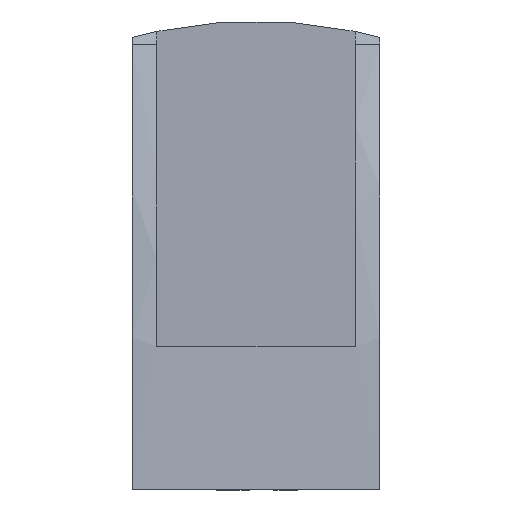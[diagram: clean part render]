
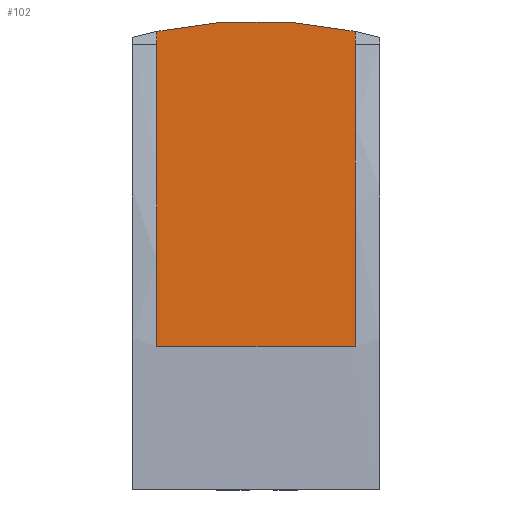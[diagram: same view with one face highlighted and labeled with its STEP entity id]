
A CAD part, left-side view. The second image highlights one B-rep face of the part: STEP entity #102.
In plain terms, the highlighted planar face has unit normal (-1, 0, 0).
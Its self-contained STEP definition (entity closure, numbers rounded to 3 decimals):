
#102=ADVANCED_FACE('',(#170),#2423,.T.);
#170=FACE_OUTER_BOUND('',#248,.T.);
#248=EDGE_LOOP('',(#550,#551,#552,#553));
#550=ORIENTED_EDGE('',*,*,#1961,.F.);
#551=ORIENTED_EDGE('',*,*,#2004,.F.);
#552=ORIENTED_EDGE('',*,*,#2010,.F.);
#553=ORIENTED_EDGE('',*,*,#1990,.F.);
#819=B_SPLINE_CURVE_WITH_KNOTS('',1,(#4164,#4165),.UNSPECIFIED.,.F.,.F.,
(2,2),(2.817,3.243),.UNSPECIFIED.);
#855=B_SPLINE_CURVE_WITH_KNOTS('',1,(#4344,#4345),.UNSPECIFIED.,.F.,.F.,
(2,2),(1.,2.),.UNSPECIFIED.);
#874=B_SPLINE_CURVE_WITH_KNOTS('',1,(#4515,#4516),.UNSPECIFIED.,.F.,.F.,
(2,2),(2.689,3.689),.UNSPECIFIED.);
#886=B_SPLINE_CURVE_WITH_KNOTS('',1,(#4564,#4565),.UNSPECIFIED.,.F.,.F.,
(2,2),(-1.,0.),.UNSPECIFIED.);
#887=B_SPLINE_CURVE_WITH_KNOTS('',1,(#4566,#4567),.UNSPECIFIED.,.F.,.F.,
(2,2),(-1.,0.),.UNSPECIFIED.);
#1151=PCURVE('',#2384,#1511);
#1189=PCURVE('',#2416,#1549);
#1221=PCURVE('',#2419,#1581);
#1234=PCURVE('',#2422,#1594);
#1238=PCURVE('',#2423,#1598);
#1239=PCURVE('',#2423,#1599);
#1240=PCURVE('',#2423,#1600);
#1241=PCURVE('',#2423,#1601);
#1511=DEFINITIONAL_REPRESENTATION('',(#819),#4808);
#1549=DEFINITIONAL_REPRESENTATION('',(#2176),#4808);
#1581=DEFINITIONAL_REPRESENTATION('',(#2203),#4808);
#1594=DEFINITIONAL_REPRESENTATION('',(#887),#4808);
#1598=DEFINITIONAL_REPRESENTATION('',(#2212),#4808);
#1599=DEFINITIONAL_REPRESENTATION('',(#2213),#4808);
#1600=DEFINITIONAL_REPRESENTATION('',(#2214),#4808);
#1601=DEFINITIONAL_REPRESENTATION('',(#2215),#4808);
#1781=SURFACE_CURVE('',#2145,(#1151,#1238),.PCURVE_S1.);
#1810=SURFACE_CURVE('',#855,(#1189,#1241),.PCURVE_S1.);
#1824=SURFACE_CURVE('',#874,(#1221,#1239),.PCURVE_S1.);
#1830=SURFACE_CURVE('',#886,(#1234,#1240),.PCURVE_S1.);
#1961=EDGE_CURVE('',#2324,#2323,#1781,.T.);
#1990=EDGE_CURVE('',#2323,#2341,#1810,.T.);
#2004=EDGE_CURVE('',#2344,#2324,#1824,.T.);
#2010=EDGE_CURVE('',#2341,#2344,#1830,.T.);
#2145=(
BOUNDED_CURVE()
B_SPLINE_CURVE(2,(#4161,#4162,#4163),.UNSPECIFIED.,.F.,.F.)
B_SPLINE_CURVE_WITH_KNOTS((3,3),(2.817,3.243),
 .UNSPECIFIED.)
CURVE()
GEOMETRIC_REPRESENTATION_ITEM()
RATIONAL_B_SPLINE_CURVE((1.,0.977,1.))
REPRESENTATION_ITEM('')
);
#2176=(
BOUNDED_CURVE()
B_SPLINE_CURVE(2,(#4346,#4347,#4348),.UNSPECIFIED.,.F.,.F.)
B_SPLINE_CURVE_WITH_KNOTS((3,3),(1.,2.),.UNSPECIFIED.)
CURVE()
GEOMETRIC_REPRESENTATION_ITEM()
RATIONAL_B_SPLINE_CURVE((1.,1.,1.))
REPRESENTATION_ITEM('')
);
#2203=(
BOUNDED_CURVE()
B_SPLINE_CURVE(2,(#4517,#4518,#4519),.UNSPECIFIED.,.F.,.F.)
B_SPLINE_CURVE_WITH_KNOTS((3,3),(2.689,3.689),
 .UNSPECIFIED.)
CURVE()
GEOMETRIC_REPRESENTATION_ITEM()
RATIONAL_B_SPLINE_CURVE((1.,1.,1.))
REPRESENTATION_ITEM('')
);
#2212=(
BOUNDED_CURVE()
B_SPLINE_CURVE(2,(#4580,#4581,#4582),.UNSPECIFIED.,.F.,.F.)
B_SPLINE_CURVE_WITH_KNOTS((3,3),(2.817,3.243),
 .UNSPECIFIED.)
CURVE()
GEOMETRIC_REPRESENTATION_ITEM()
RATIONAL_B_SPLINE_CURVE((1.,0.977,1.))
REPRESENTATION_ITEM('')
);
#2213=(
BOUNDED_CURVE()
B_SPLINE_CURVE(2,(#4583,#4584,#4585),.UNSPECIFIED.,.F.,.F.)
B_SPLINE_CURVE_WITH_KNOTS((3,3),(2.689,3.689),
 .UNSPECIFIED.)
CURVE()
GEOMETRIC_REPRESENTATION_ITEM()
RATIONAL_B_SPLINE_CURVE((1.,1.,1.))
REPRESENTATION_ITEM('')
);
#2214=(
BOUNDED_CURVE()
B_SPLINE_CURVE(2,(#4586,#4587,#4588),.UNSPECIFIED.,.F.,.F.)
B_SPLINE_CURVE_WITH_KNOTS((3,3),(-1.,0.),.UNSPECIFIED.)
CURVE()
GEOMETRIC_REPRESENTATION_ITEM()
RATIONAL_B_SPLINE_CURVE((1.,1.,1.))
REPRESENTATION_ITEM('')
);
#2215=(
BOUNDED_CURVE()
B_SPLINE_CURVE(2,(#4589,#4590,#4591),.UNSPECIFIED.,.F.,.F.)
B_SPLINE_CURVE_WITH_KNOTS((3,3),(1.,2.),.UNSPECIFIED.)
CURVE()
GEOMETRIC_REPRESENTATION_ITEM()
RATIONAL_B_SPLINE_CURVE((1.,1.,1.))
REPRESENTATION_ITEM('')
);
#2323=VERTEX_POINT('',#4001);
#2324=VERTEX_POINT('',#4002);
#2341=VERTEX_POINT('',#4019);
#2344=VERTEX_POINT('',#4022);
#2384=(
BOUNDED_SURFACE()
B_SPLINE_SURFACE(1,2,((#3730,#3731,#3732,#3733,#3734,#3735,#3736,#3737,#3738),
(#3739,#3740,#3741,#3742,#3743,#3744,#3745,#3746,#3747)),.UNSPECIFIED.,.F.,
 .F.,.F.)
B_SPLINE_SURFACE_WITH_KNOTS((2,2),(3,2,2,2,3),(0.,1.),(0.,1.571,
3.142,4.712,6.283),.UNSPECIFIED.)
GEOMETRIC_REPRESENTATION_ITEM()
RATIONAL_B_SPLINE_SURFACE(((1.,0.707,1.,0.707,1.,
0.707,1.,0.707,1.),(1.,0.707,1.,0.707,
1.,0.707,1.,0.707,1.)))
REPRESENTATION_ITEM('')
SURFACE()
);
#2416=PLANE('',#2470);
#2419=PLANE('',#2473);
#2422=PLANE('',#2476);
#2423=PLANE('',#2477);
#2470=AXIS2_PLACEMENT_3D('',#3804,#2507,$);
#2473=AXIS2_PLACEMENT_3D('',#3879,#2510,$);
#2476=AXIS2_PLACEMENT_3D('',#3882,#2513,$);
#2477=AXIS2_PLACEMENT_3D('',#3883,#2514,$);
#2507=DIRECTION('',(0.,1.,0.));
#2510=DIRECTION('',(0.,-1.,0.));
#2513=DIRECTION('',(0.,0.,1.));
#2514=DIRECTION('',(-1.,0.,0.));
#3730=CARTESIAN_POINT('',(-178.159,-584.5,217.724));
#3731=CARTESIAN_POINT('',(-178.159,-619.224,208.224));
#3732=CARTESIAN_POINT('',(-178.159,-609.724,173.5));
#3733=CARTESIAN_POINT('',(-178.159,-600.224,138.776));
#3734=CARTESIAN_POINT('',(-178.159,-565.5,148.276));
#3735=CARTESIAN_POINT('',(-178.159,-530.776,157.776));
#3736=CARTESIAN_POINT('',(-178.159,-540.276,192.5));
#3737=CARTESIAN_POINT('',(-178.159,-549.776,227.224));
#3738=CARTESIAN_POINT('',(-178.159,-584.5,217.724));
#3739=CARTESIAN_POINT('',(-271.841,-584.5,217.724));
#3740=CARTESIAN_POINT('',(-271.841,-619.224,208.224));
#3741=CARTESIAN_POINT('',(-271.841,-609.724,173.5));
#3742=CARTESIAN_POINT('',(-271.841,-600.224,138.776));
#3743=CARTESIAN_POINT('',(-271.841,-565.5,148.276));
#3744=CARTESIAN_POINT('',(-271.841,-530.776,157.776));
#3745=CARTESIAN_POINT('',(-271.841,-540.276,192.5));
#3746=CARTESIAN_POINT('',(-271.841,-549.776,227.224));
#3747=CARTESIAN_POINT('',(-271.841,-584.5,217.724));
#3804=CARTESIAN_POINT('',(-263.525,-582.6,194.));
#3879=CARTESIAN_POINT('',(-278.542,-567.4,194.));
#3882=CARTESIAN_POINT('',(-278.542,-567.4,194.));
#3883=CARTESIAN_POINT('',(-263.525,-567.4,194.));
#4001=CARTESIAN_POINT('',(-263.525,-582.6,218.189));
#4002=CARTESIAN_POINT('',(-263.525,-567.4,218.189));
#4019=CARTESIAN_POINT('',(-263.525,-582.6,194.));
#4022=CARTESIAN_POINT('',(-263.525,-567.4,194.));
#4161=CARTESIAN_POINT('',(-263.525,-567.4,218.189));
#4162=CARTESIAN_POINT('',(-263.525,-575.,219.83));
#4163=CARTESIAN_POINT('',(-263.525,-582.6,218.189));
#4164=CARTESIAN_POINT('',(0.911,5.79));
#4165=CARTESIAN_POINT('',(0.911,6.223));
#4344=CARTESIAN_POINT('',(-263.525,-582.6,218.189));
#4345=CARTESIAN_POINT('',(-263.525,-582.6,194.));
#4346=CARTESIAN_POINT('',(0.,1.));
#4347=CARTESIAN_POINT('',(0.,0.5));
#4348=CARTESIAN_POINT('',(0.,0.));
#4515=CARTESIAN_POINT('',(-263.525,-567.4,194.));
#4516=CARTESIAN_POINT('',(-263.525,-567.4,218.189));
#4517=CARTESIAN_POINT('',(1.,0.));
#4518=CARTESIAN_POINT('',(1.,0.5));
#4519=CARTESIAN_POINT('',(1.,1.));
#4564=CARTESIAN_POINT('',(-263.525,-582.6,194.));
#4565=CARTESIAN_POINT('',(-263.525,-567.4,194.));
#4566=CARTESIAN_POINT('',(1.,1.));
#4567=CARTESIAN_POINT('',(0.,1.));
#4580=CARTESIAN_POINT('',(0.,0.968));
#4581=CARTESIAN_POINT('',(0.5,1.033));
#4582=CARTESIAN_POINT('',(1.,0.968));
#4583=CARTESIAN_POINT('',(0.,0.));
#4584=CARTESIAN_POINT('',(0.,0.484));
#4585=CARTESIAN_POINT('',(0.,0.968));
#4586=CARTESIAN_POINT('',(1.,0.));
#4587=CARTESIAN_POINT('',(0.5,0.));
#4588=CARTESIAN_POINT('',(0.,0.));
#4589=CARTESIAN_POINT('',(1.,0.968));
#4590=CARTESIAN_POINT('',(1.,0.484));
#4591=CARTESIAN_POINT('',(1.,0.));
#4808=(
GEOMETRIC_REPRESENTATION_CONTEXT(2)
PARAMETRIC_REPRESENTATION_CONTEXT()
REPRESENTATION_CONTEXT('pspace','')
);
